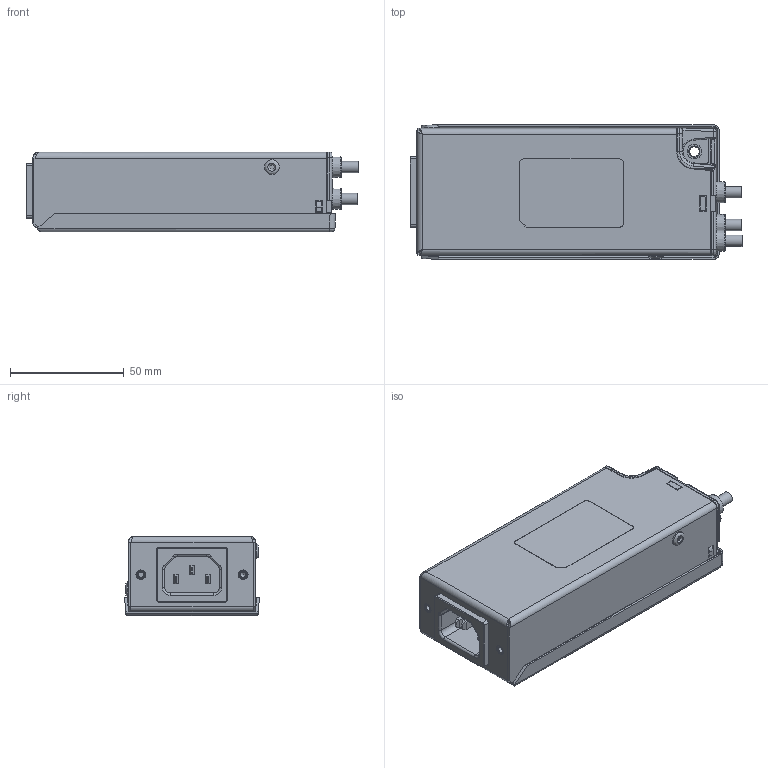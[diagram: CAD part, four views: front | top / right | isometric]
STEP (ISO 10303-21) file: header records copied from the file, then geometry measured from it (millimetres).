
FILE_DESCRIPTION(/* description */ (''),/* implementation_level */ '2;1');
FILE_NAME(/* name */ 'C:\Users\Christian.Ackermann\OneDrive - Schaffner EMV AG\Desktop\UMA_customerSTEP\FN2640-10_15-07.stp',/* time_stamp */ '2021-08-24T10:37:16+02:00',/* author */ ('Christian.Ackermann'),/* organization */ (''),/* preprocessor_version */ 'ST-DEVELOPER v18.1',/* originating_system */ 'Autodesk Inventor 2020',/* authorisation */ '');
FILE_SCHEMA (('AUTOMOTIVE_DESIGN { 1 0 10303 214 3 1 1 }'));
Length unit declared in the file: millimetre
Products named in the file (1): FN2640-10_15-07
Bounding box: 145.95 x 59 x 35.06 mm (x, y, z)
Volume: 248225.3 mm3; surface area: 40772.1 mm2
Topology: 1 solids, 1 shells, 923 faces, 2323 edges, 1428 vertices
Faces by surface type: plane 418, cylinder 298, bspline 103, torus 43, sphere 36, cone 25
Full cylindrical faces by diameter (mm): 2 x2, 2.459 x2, 4.2 x1, 4.25 x2, 5 x3, 6.111 x1, 6.4 x2, 6.5 x2, 8.39 x2, 8.74 x3
Entity records: 31446 total; most frequent: CARTESIAN_POINT 8186, DIRECTION 4670, ORIENTED_EDGE 4640, EDGE_CURVE 2320, AXIS2_PLACEMENT_3D 1651, VERTEX_POINT 1428, LINE 1368, VECTOR 1368
